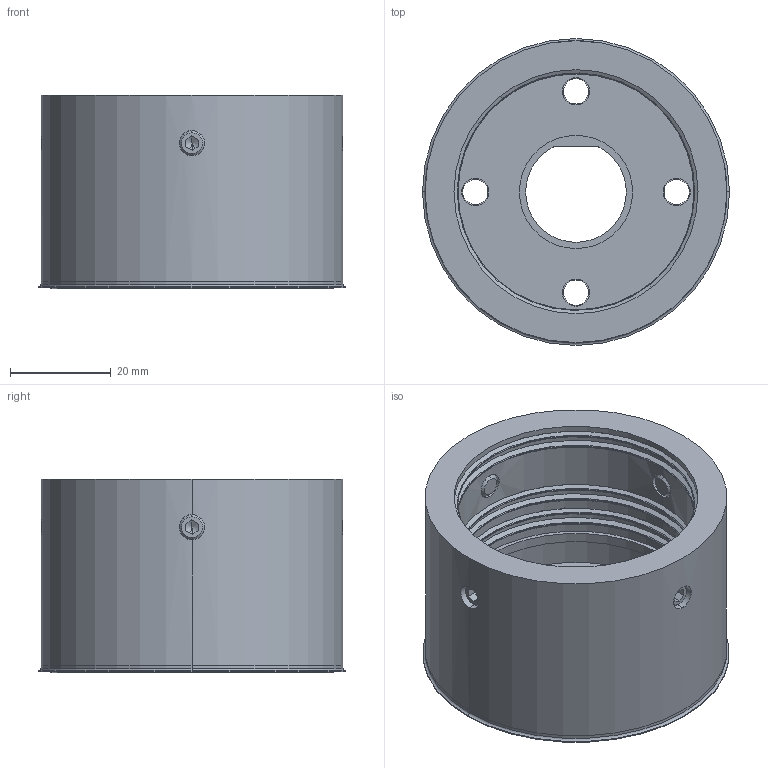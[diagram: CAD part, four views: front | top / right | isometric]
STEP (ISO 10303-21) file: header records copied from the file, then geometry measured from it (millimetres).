
FILE_DESCRIPTION (( 'STEP AP214' ), '1' );
FILE_NAME ('10078157_000.STEP', '2023-10-27T08:59:14', ( '' ), ( '' ), 'SwSTEP 2.0', 'SolidWorks 2022', '' );
FILE_SCHEMA (( 'AUTOMOTIVE_DESIGN' ));
Length unit declared in the file: millimetre
Products named in the file (1): 10078157_000
Bounding box: 61 x 61 x 38.4 mm (x, y, z)
Volume: 40272.8 mm3; surface area: 37732.8 mm2
Topology: 9 solids, 9 shells, 656 faces, 1510 edges, 970 vertices
Faces by surface type: plane 299, cylinder 225, cone 104, torus 28
Entity records: 19748 total; most frequent: CARTESIAN_POINT 4201, DIRECTION 3404, ORIENTED_EDGE 3004, EDGE_CURVE 1502, AXIS2_PLACEMENT_3D 1285, VERTEX_POINT 970, VECTOR 834, LINE 834
